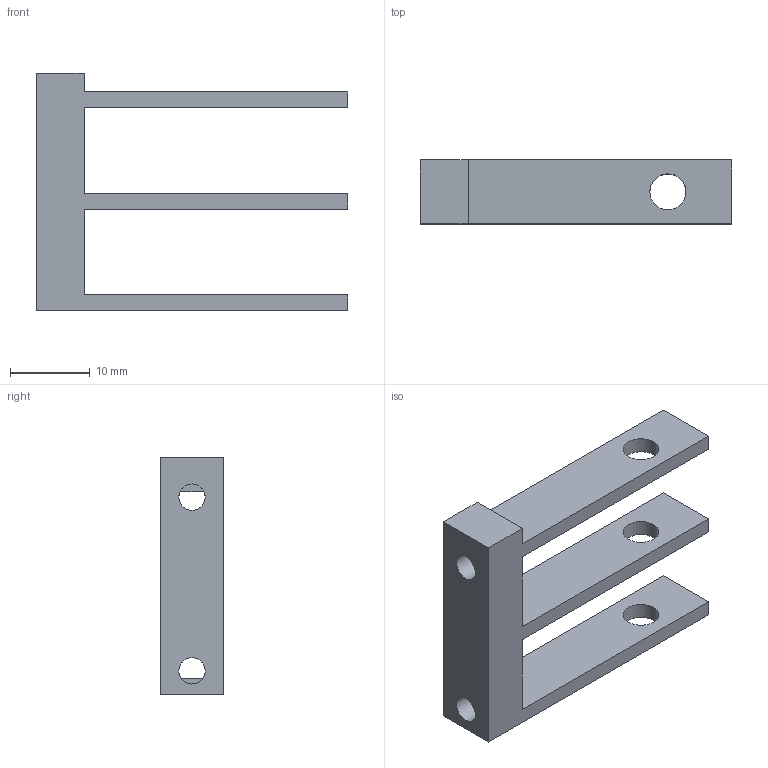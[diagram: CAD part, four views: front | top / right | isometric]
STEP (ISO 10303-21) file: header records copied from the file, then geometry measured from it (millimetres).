
FILE_DESCRIPTION(('FreeCAD Model'),'2;1');
FILE_NAME('Open CASCADE Shape Model','2026-10-30T14:44:41',('FreeCAD'),( 'FreeCAD'),'Open CASCADE STEP processor 7.8','FreeCAD','Unknown');
FILE_SCHEMA(('AUTOMOTIVE_DESIGN { 1 0 10303 214 1 1 1 1 }'));
Length unit declared in the file: millimetre
Products named in the file (1): Open CASCADE STEP translator 7.8 4
Bounding box: 39 x 8 x 29.75 mm (x, y, z)
Volume: 2813.9 mm3; surface area: 2995.4 mm2
Topology: 1 solids, 1 shells, 23 faces, 65 edges, 42 vertices
Faces by surface type: plane 18, cylinder 5
Full cylindrical faces by diameter (mm): 3.3 x2, 4.5 x3
Entity records: 771 total; most frequent: CARTESIAN_POINT 131, ORIENTED_EDGE 130, DIRECTION 127, EDGE_CURVE 65, LINE 51, VECTOR 51, VERTEX_POINT 42, AXIS2_PLACEMENT_3D 38
